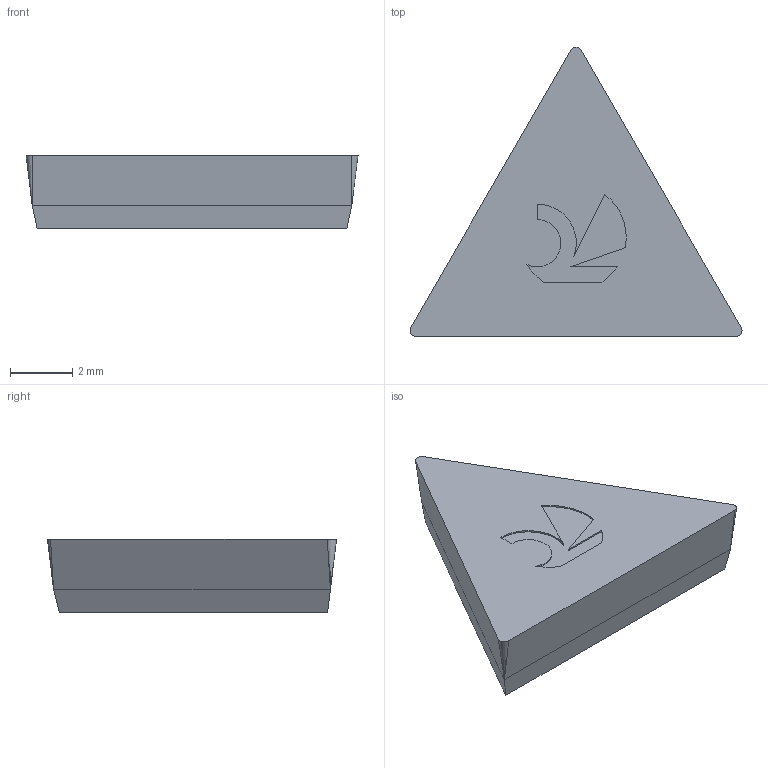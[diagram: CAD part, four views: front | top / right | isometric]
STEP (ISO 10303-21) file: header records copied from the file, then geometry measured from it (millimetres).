
FILE_DESCRIPTION(('no description'),'unknown implementation level');
FILE_NAME('solidcm6PEtT1Jzh4b91D43M06oD_6zE_1.STP',' ',('CIMSOURCE GmbH'),('CADClick - KiM GmbH - www.kimweb.de'),'unknown preprocess','ACIS','unknown authorization');
FILE_SCHEMA(('automotive_design'));
Length unit declared in the file: millimetre
Products named in the file (1): CUT
Bounding box: 10.71 x 9.32 x 2.38 mm (x, y, z)
Volume: 113.3 mm3; surface area: 171.1 mm2
Topology: 1 solids, 1 shells, 23 faces, 57 edges, 34 vertices
Faces by surface type: plane 14, cylinder 6, cone 3
Entity records: 1313 total; most frequent: DIRECTION 121, CARTESIAN_POINT 114, STYLED_ITEM 112, PRESENTATION_STYLE_ASSIGNMENT 112, COLOUR_RGB 112, ORIENTED_EDGE 108, EDGE_CURVE 54, CURVE_STYLE 54
